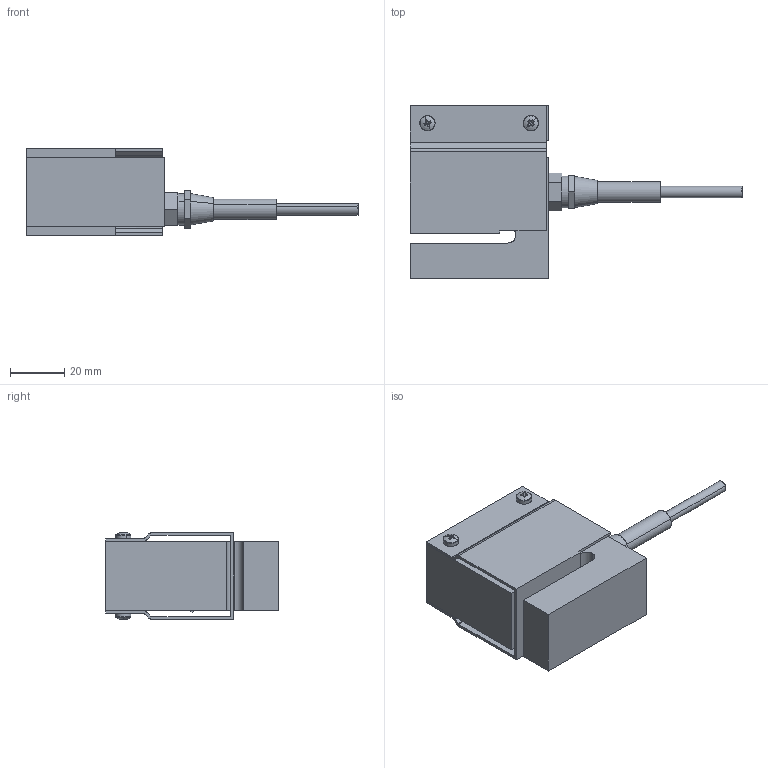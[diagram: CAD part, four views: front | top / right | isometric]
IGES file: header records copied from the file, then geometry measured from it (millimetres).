
Start section: SolidWorks IGES file using analytic representation for surfaces
Global section: file name: O:\16-Entwicklung\Projekte\03_Kraftsensoren\0225_KM1402\01_Mechanik & Gehäuse\01_Solid Works\01_Outline 3D files\3D_KM1402_2kN.IGS; native system: SolidWorks 2012; preprocessor: SolidWorks 2012; author: AndreB; date: 131219.150257; units: metre
Bounding box: 121.9 x 63.5 x 32.01 mm (x, y, z)
Surface area: 26081.9 mm2 (no closed solid volume)
Topology: 0 solids, 0 shells, 225 faces, 1692 edges, 1684 vertices
Faces by surface type: bspline 146, revolution 79
